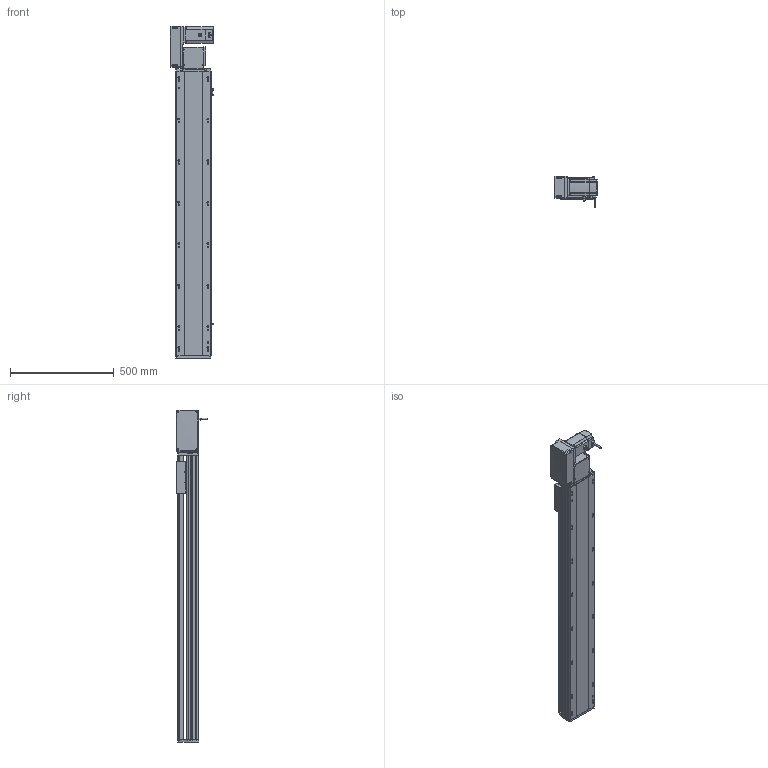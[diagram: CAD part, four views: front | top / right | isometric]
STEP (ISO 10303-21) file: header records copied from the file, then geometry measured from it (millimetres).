
FILE_DESCRIPTION (( 'STEP AP214' ), '1' );
FILE_NAME ('RTB17S-XX-1100-L-M75-C4.STEP', '2025-12-12T00:13:45', ( '' ), ( '' ), 'SwSTEP 2.0', 'SolidWorks 2018', '' );
FILE_SCHEMA (( 'AUTOMOTIVE_DESIGN' ));
Length unit declared in the file: millimetre
Products named in the file (15): RTB17S-L-001-耜醱啣^RTB17S-XX-XX-L-M75-C4; RTB17S-賑釱^RTB17S-XX-XX-L-M75-C4; RTB22S-GY-018P^RTB17S-L-々湍釱蚾饜-750W_RTB17S-XX-XX-L-M75-C4; RTB17S-L-007奻裔^RTB17S-XX-XX-L-M75-C4; RMP17S-L-014-T20-P75--々湍釱^RTB17S-L-々湍釱蚾饜-750W_RTB17S-XX-XX-L-M75-C4; RTB22S-GY-017P^RTB17S-L-々湍釱蚾饜-750W_RTB17S-XX-XX-L-M75-C4; RTB17-R-011菁釱^RTB17S-XX-XX-L-M75-C4; 750W萇儂^RTB17S-XX-XX-L-M75-C4; EE672^RTB17S-XX-XX-L-M75-C4; RTB22S-GY-005P^RTB17S-L-々湍釱蚾饜-750W_RTB17S-XX-XX-L-M75-C4; RTB17S-L-004-賑釱^RTB17S-賑釱_RTB17S-XX-XX-L-M75-C4; RTB22S-GY-008-M75--萇儂啣^RTB17S-L-々湍釱蚾饜-750W_RTB17S-XX-XX-L-M75-C4; RTB17S-L-々湍釱蚾饜-750W^RTB17S-XX-XX-L-M75-C4; RTH13-BL-012覜茼え俋离^RTB17S-賑釱_RTB17S-XX-XX-L-M75-C4; RTB17S-XX-1100-L-M75-C4
Assembly tree (17 placements, depth 3):
  RTB17S-XX-1100-L-M75-C4
    RTB17-R-011菁釱^RTB17S-XX-XX-L-M75-C4
    EE672^RTB17S-XX-XX-L-M75-C4  x3
    RTB17S-L-001-耜醱啣^RTB17S-XX-XX-L-M75-C4
    RTB17S-賑釱^RTB17S-XX-XX-L-M75-C4
      RTB17S-L-004-賑釱^RTB17S-賑釱_RTB17S-XX-XX-L-M75-C4
      RTH13-BL-012覜茼え俋离^RTB17S-賑釱_RTB17S-XX-XX-L-M75-C4
    RTB17S-L-007奻裔^RTB17S-XX-XX-L-M75-C4
    750W萇儂^RTB17S-XX-XX-L-M75-C4
    RTB17S-L-々湍釱蚾饜-750W^RTB17S-XX-XX-L-M75-C4
      RMP17S-L-014-T20-P75--々湍釱^RTB17S-L-々湍釱蚾饜-750W_RTB17S-XX-XX-L-M75-C4
      RTB22S-GY-005P^RTB17S-L-々湍釱蚾饜-750W_RTB17S-XX-XX-L-M75-C4
      RTB22S-GY-017P^RTB17S-L-々湍釱蚾饜-750W_RTB17S-XX-XX-L-M75-C4  x2
      RTB22S-GY-008-M75--萇儂啣^RTB17S-L-々湍釱蚾饜-750W_RTB17S-XX-XX-L-M75-C4
      RTB22S-GY-018P^RTB17S-L-々湍釱蚾饜-750W_RTB17S-XX-XX-L-M75-C4
Bounding box: 210.4 x 152.7 x 1599 mm (x, y, z)
Volume: 12823633.8 mm3; surface area: 2194651.3 mm2
Topology: 17 solids, 17 shells, 2105 faces, 5836 edges, 3770 vertices
Faces by surface type: plane 972, cylinder 717, bspline 294, cone 110, sphere 8, torus 4
Entity records: 58870 total; most frequent: CARTESIAN_POINT 17300, ORIENTED_EDGE 8516, DIRECTION 7952, EDGE_CURVE 4258, AXIS2_PLACEMENT_3D 2790, VERTEX_POINT 2774, VECTOR 2372, LINE 2372
